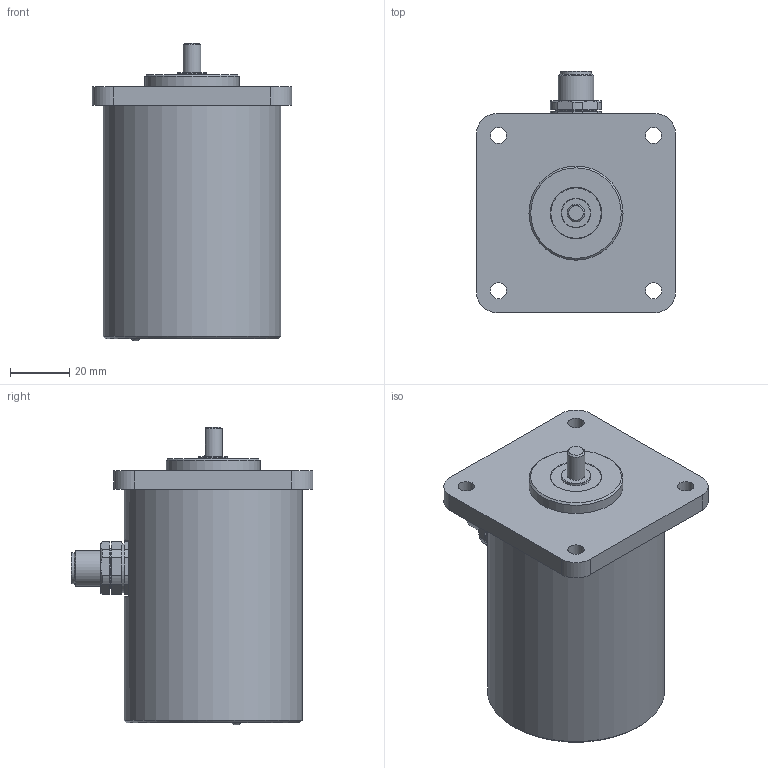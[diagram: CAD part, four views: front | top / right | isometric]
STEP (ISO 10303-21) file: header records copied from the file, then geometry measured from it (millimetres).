
FILE_DESCRIPTION(/* description */ ('Alibre Inc.'),/* implementation_level */ '2;1');
FILE_NAME(/* name */ 'export0',/* time_stamp */ '2016-10-21T14:14:19-04:00',/* author */ (''),/* organization */ (''),/* preprocessor_version */ 'ST-DEVELOPER v14',/* originating_system */ 'Alibre',/* authorisation */ '');
FILE_SCHEMA (('CONFIG_CONTROL_DESIGN'));
Length unit declared in the file: centimetre
Products named in the file (1): ID_1
Bounding box: 67.31 x 81.61 x 100.55 mm (x, y, z)
Volume: 165951.9 mm3; surface area: 45632.3 mm2
Topology: 3 solids, 45 shells, 291 faces, 500 edges, 331 vertices
Faces by surface type: plane 155, cylinder 107, cone 25, bspline 3, torus 1
Full cylindrical faces by diameter (mm): 1.4 x8, 2.87 x2, 3 x37, 5.5 x4, 6 x1, 8.3 x1, 9.9 x2, 10 x3, 10.5 x1, 11.8 x1, 12 x1, 13.5 x2, 14 x1, 15.2 x1, 16.5 x1, 17 x1, 20 x1, 26 x1, 31.75 x1, 40 x1, 46 x1, 55.8 x1, 60 x1
Entity records: 6193 total; most frequent: CARTESIAN_POINT 1139, DIRECTION 1002, ORIENTED_EDGE 770, AXIS2_PLACEMENT_3D 502, EDGE_LOOP 435, FACE_BOUND 435, EDGE_CURVE 385, VERTEX_POINT 312
